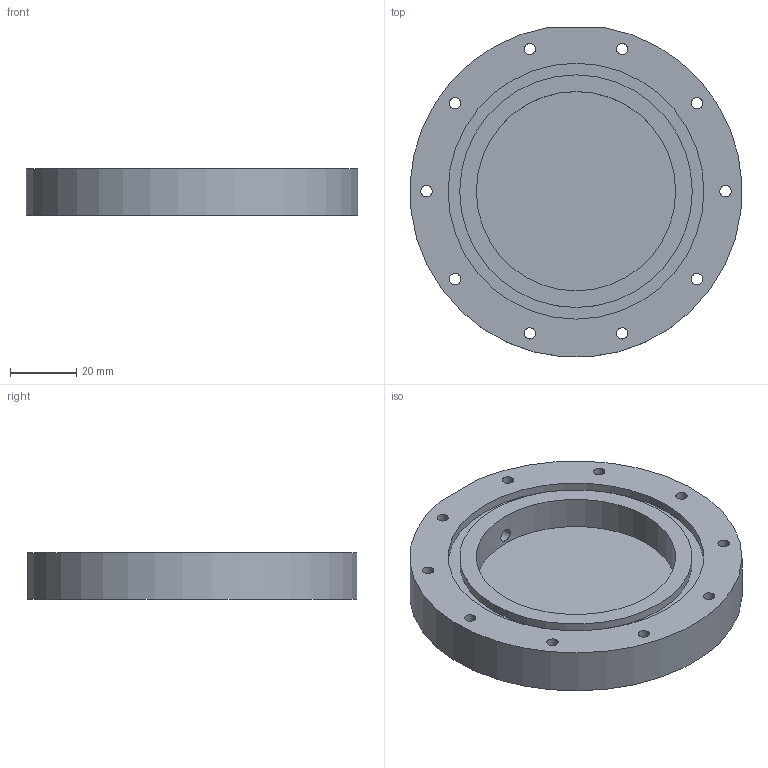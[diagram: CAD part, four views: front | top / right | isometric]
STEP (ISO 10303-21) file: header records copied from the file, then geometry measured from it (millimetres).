
FILE_DESCRIPTION(/* description */ ('Vacuum Chamber'),/* implementation_level */ '2;1');
FILE_NAME(/* name */ 'ITPT.02.00.003.stp',/* time_stamp */ '2025-02-12T14:35:12+01:00',/* author */ ('Rüdiger Widera'),/* organization */ (''),/* preprocessor_version */ 'ST-DEVELOPER v19.2',/* originating_system */ 'Autodesk Inventor 2024',/* authorisation */ '');
FILE_SCHEMA (('AUTOMOTIVE_DESIGN { 1 0 10303 214 3 1 1 }'));
Length unit declared in the file: millimetre
Products named in the file (1): ITPT.02.00.003
Bounding box: 99.89 x 99.17 x 14 mm (x, y, z)
Volume: 76835.6 mm3; surface area: 25088.8 mm2
Topology: 1 solids, 1 shells, 44 faces, 84 edges, 55 vertices
Faces by surface type: cylinder 26, plane 16, cone 2
Full cylindrical faces by diameter (mm): 3.4 x10, 4 x1, 6.5 x10, 8.566 x1, 60 x1, 70 x1, 77 x1
Entity records: 1254 total; most frequent: DIRECTION 225, CARTESIAN_POINT 217, ORIENTED_EDGE 168, AXIS2_PLACEMENT_3D 97, EDGE_CURVE 84, EDGE_LOOP 79, VERTEX_POINT 55, CIRCLE 52
